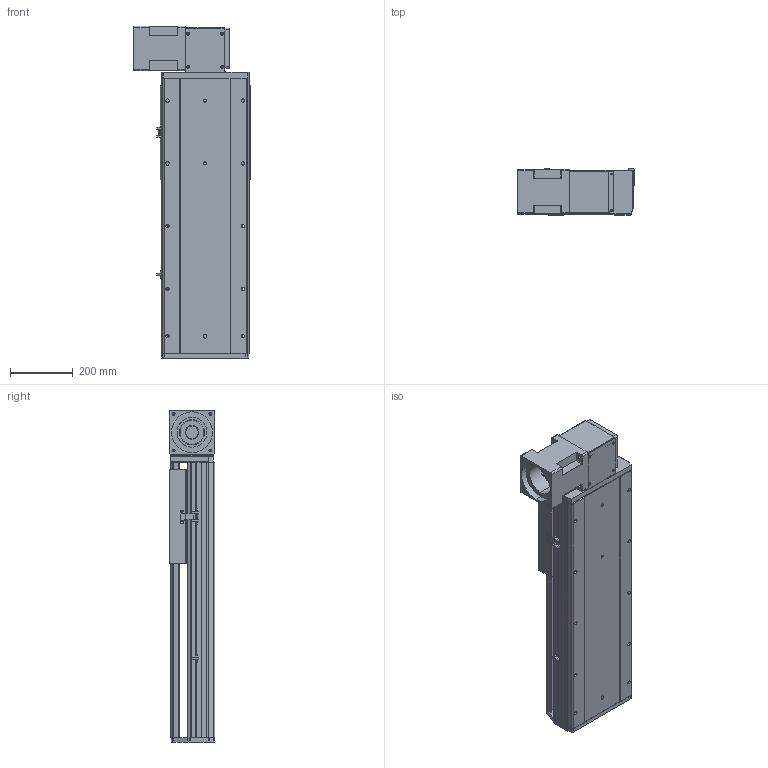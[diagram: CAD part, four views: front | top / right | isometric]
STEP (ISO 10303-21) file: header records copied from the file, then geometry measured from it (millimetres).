
FILE_DESCRIPTION (( 'STEP AP214' ), '1' );
FILE_NAME ('RTB28R-XX-450-BR-M100-XX-C4.STEP', '2025-12-22T01:07:28', ( '' ), ( '' ), 'SwSTEP 2.0', 'SolidWorks 2018', '' );
FILE_SCHEMA (( 'AUTOMOTIVE_DESIGN' ));
Length unit declared in the file: millimetre
Products named in the file (4): RTB28S-GY-004^RTB28R-XX-XX-BR-M100-XX-C4; RTB28S-GY-008^RTB28R-XX-XX-BR-M100-XX-C4; RTB28S-GY-011^RTB28R-XX-XX-BR-M100-XX-C4; RTB28R-XX-450-BR-M100-XX-C4
Assembly tree (3 placements, depth 2):
  RTB28R-XX-450-BR-M100-XX-C4
    RTB28S-GY-011^RTB28R-XX-XX-BR-M100-XX-C4
    RTB28S-GY-004^RTB28R-XX-XX-BR-M100-XX-C4
    RTB28S-GY-008^RTB28R-XX-XX-BR-M100-XX-C4
Bounding box: 370 x 145 x 1057 mm (x, y, z)
Volume: 20954055.4 mm3; surface area: 2079512 mm2
Topology: 3 solids, 4 shells, 958 faces, 2520 edges, 1616 vertices
Faces by surface type: plane 450, cylinder 337, bspline 87, cone 80, torus 4
Entity records: 40744 total; most frequent: CARTESIAN_POINT 10795, ORIENTED_EDGE 4976, DIRECTION 4800, EDGE_CURVE 2488, AXIS2_PLACEMENT_3D 1629, VERTEX_POINT 1616, LINE 1542, VECTOR 1542
